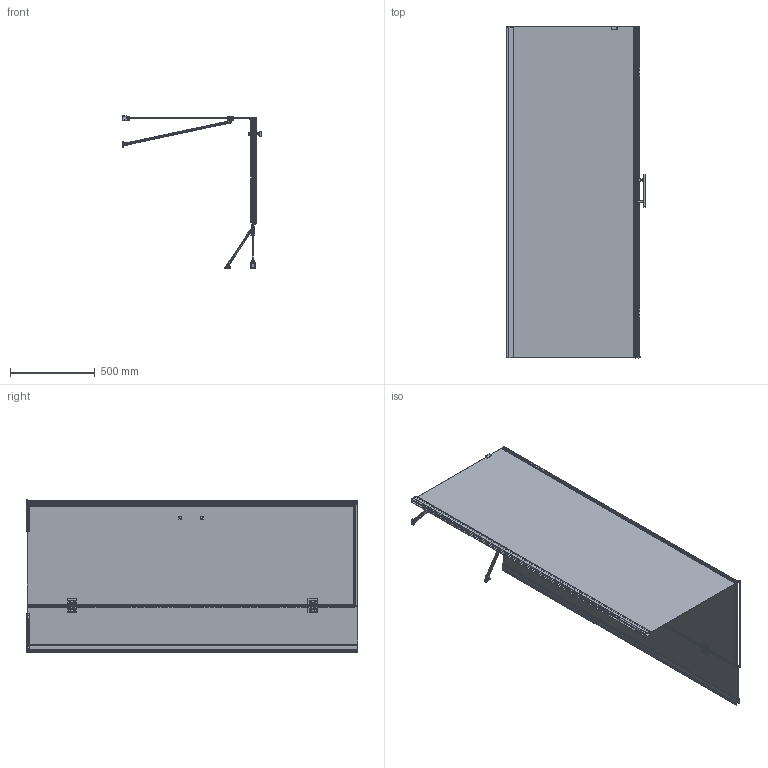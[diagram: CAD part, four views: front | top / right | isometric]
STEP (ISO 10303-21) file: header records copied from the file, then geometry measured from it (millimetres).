
FILE_DESCRIPTION(/* description */ (''),/* implementation_level */ '2;1');
FILE_NAME(/* name */ 'c:\worker\convert-fusion-r08\tmp\job-1\7\output\files\5ea6c62b-7d0e-4feb-8225-64349b03febe\dfed3136-b3b5-48d9-afad-40750a7a4989.stp',/* time_stamp */ '2020-10-21T07:10:56+00:00',/* author */ (''),/* organization */ (''),/* preprocessor_version */ 'ST-DEVELOPER v18.1',/* originating_system */ 'Autodesk Translation Framework v9.3.0.1241',/* authorisation */ '');
FILE_SCHEMA (('AUTOMOTIVE_DESIGN { 1 0 10303 214 3 1 1 }'));
Products named in the file (2): !MH9080; !ADR80X v2
Assembly tree (1 placements, depth 2):
  !MH9080
    !ADR80X v2
Bounding box: 820.23 x 1955.35 x 897.01 mm (x, y, z)
Volume: 19514366.6 mm3; surface area: 8372283.6 mm2
Topology: 64 solids, 64 shells, 3395 faces, 8551 edges, 5276 vertices
Faces by surface type: plane 1508, cylinder 904, bspline 785, torus 116, cone 58, sphere 24
Full cylindrical faces by diameter (mm): 1.85 x4, 2 x4, 2.264 x8, 2.544 x4, 3.5 x4, 3.6 x49, 4 x14, 4.2 x2, 5 x12, 5.1 x1, 5.992 x2, 6 x6, 6.5 x4, 7 x2, 7.2 x4, 7.5 x4, 8.5 x2, 9.6 x8, 10 x2, 10.6 x8, 10.8 x4, 11.452 x4, 11.6 x8, 11.8 x8
Entity records: 306711 total; most frequent: CARTESIAN_POINT 229719, ORIENTED_EDGE 17042, DIRECTION 14173, EDGE_CURVE 8521, VERTEX_POINT 5276, LINE 4817, VECTOR 4817, AXIS2_PLACEMENT_3D 4678
